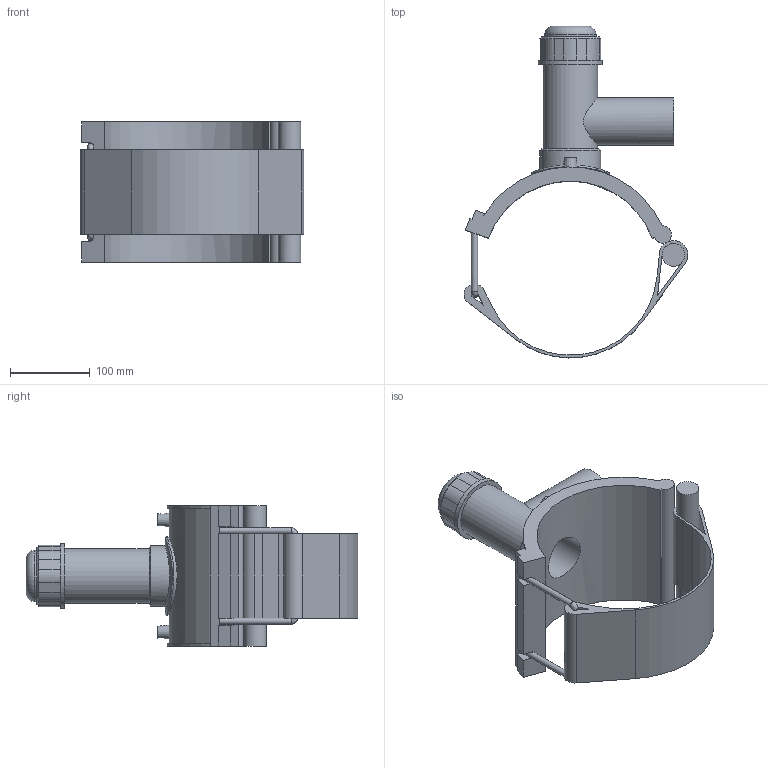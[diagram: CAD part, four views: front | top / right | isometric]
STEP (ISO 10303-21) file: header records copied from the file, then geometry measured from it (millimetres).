
FILE_DESCRIPTION(/* description */ ('PLASSON HIGH VOLUME TAPPING TEE 8''''IPS x 2''''IPS'),/* implementation_level */ '2;1');
FILE_NAME(/* name */ 'C:\Dropbox\KIMPROJECTS-Inventor 2019\99-16-3568-Processing Inch\ASTM ElectroFusion 2021\5913B\5913BB03080020.ipt.stp',/* time_stamp */ '2021-08-30T09:50:36+03:00',/* author */ ('KIM'),/* organization */ (''),/* preprocessor_version */ 'ST-DEVELOPER v17.2',/* originating_system */ 'Autodesk Inventor 2019',/* authorisation */ '');
FILE_SCHEMA (('AUTOMOTIVE_DESIGN { 1 0 10303 214 3 1 1 }'));
Length unit declared in the file: millimetre
Products named in the file (1): 5913BB03080020
Bounding box: 280.96 x 416.78 x 176.02 mm (x, y, z)
Volume: 1731680.5 mm3; surface area: 357488.5 mm2
Topology: 1 solids, 1 shells, 126 faces, 333 edges, 210 vertices
Faces by surface type: plane 69, cylinder 42, cone 11, bspline 3, torus 1
Full cylindrical faces by diameter (mm): 4 x2, 7.873 x2, 10 x2, 28.431 x1, 48.08 x1, 56.49 x1, 60.1 x1, 64.56 x1, 68.595 x1, 76.665 x1, 80.7 x1, 98.415 x1
Entity records: 4554 total; most frequent: CARTESIAN_POINT 1318, DIRECTION 678, ORIENTED_EDGE 664, EDGE_CURVE 332, AXIS2_PLACEMENT_3D 245, VERTEX_POINT 210, LINE 188, VECTOR 188
